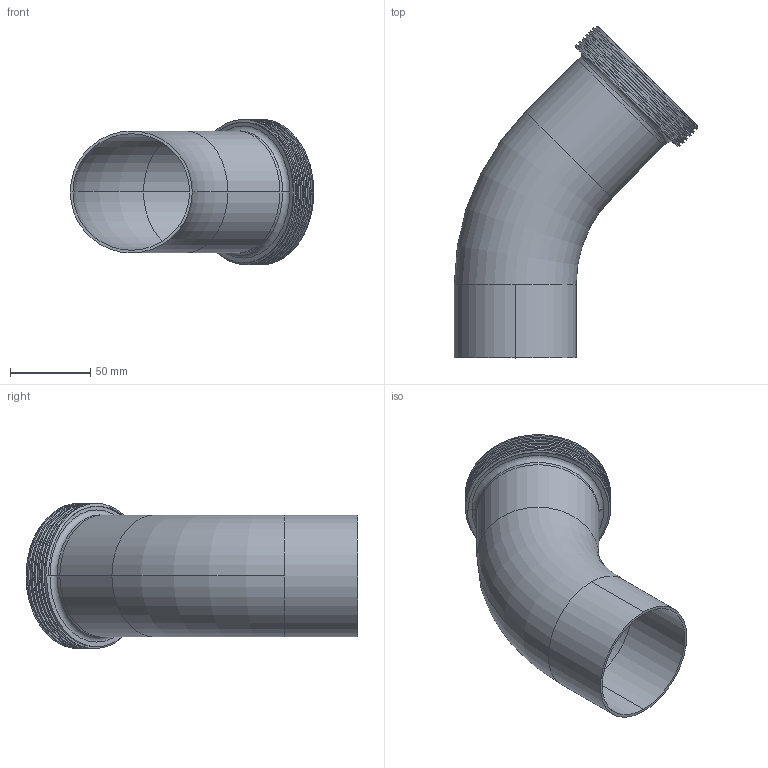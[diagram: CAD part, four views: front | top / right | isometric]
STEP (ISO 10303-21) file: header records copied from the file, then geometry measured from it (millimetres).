
FILE_DESCRIPTION (( 'STEP AP203' ), '1' );
FILE_NAME ('E2KT3.0.STEP', '2018-05-02T16:05:53', ( 'vneprd' ), ( 'Microsoft' ), 'SwSTEP 2.0', 'SolidWorks 2014', '' );
FILE_SCHEMA (( 'CONFIG_CONTROL_DESIGN' ));
Length unit declared in the file: inch
Products named in the file (3): E2KS3.0; 15TR3.0; E2KT3.0
Assembly tree (2 placements, depth 2):
  E2KT3.0
    E2KS3.0
    15TR3.0
Bounding box: 152.16 x 207.43 x 90.8 mm (x, y, z)
Volume: 109555.4 mm3; surface area: 103912.9 mm2
Topology: 2 solids, 2 shells, 47 faces, 118 edges, 76 vertices
Faces by surface type: cylinder 26, plane 7, torus 6, bspline 6, cone 2
Entity records: 4601 total; most frequent: CARTESIAN_POINT 3253, ORIENTED_EDGE 236, DIRECTION 209, EDGE_CURVE 118, AXIS2_PLACEMENT_3D 87, VERTEX_POINT 76, EDGE_LOOP 52, ADVANCED_FACE 47
